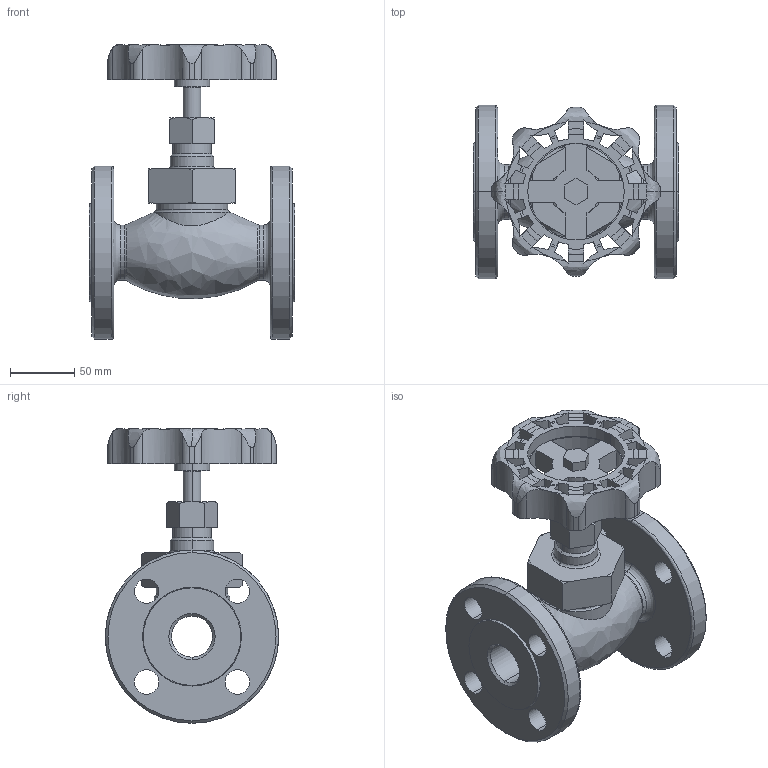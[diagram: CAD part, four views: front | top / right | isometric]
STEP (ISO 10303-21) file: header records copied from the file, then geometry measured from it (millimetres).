
FILE_DESCRIPTION( (''), '2;1');
FILE_NAME ('PC1027.9568.GLV-20F 32A_17638.stp','2025-07-28T11:41:28',(''),(''),'spGate 19.8.4 (****-****-****-****)','','');
FILE_SCHEMA (('AUTOMOTIVE_DESIGN'));
Length unit declared in the file: millimetre
Bounding box: 160 x 135 x 229.5 mm (x, y, z)
Volume: 1040113.5 mm3; surface area: 180786 mm2
Topology: 1 solids, 1 shells, 287 faces, 830 edges, 542 vertices
Faces by surface type: cylinder 119, plane 90, bspline 78
Entity records: 17686 total; most frequent: CARTESIAN_POINT 4258, ORIENTED_EDGE 1660, DIRECTION 1330, COLOUR_RGB 1118, PRESENTATION_STYLE_ASSIGNMENT 1118, STYLED_ITEM 1118, EDGE_CURVE 830, DRAUGHTING_PRE_DEFINED_CURVE_FONT 830
